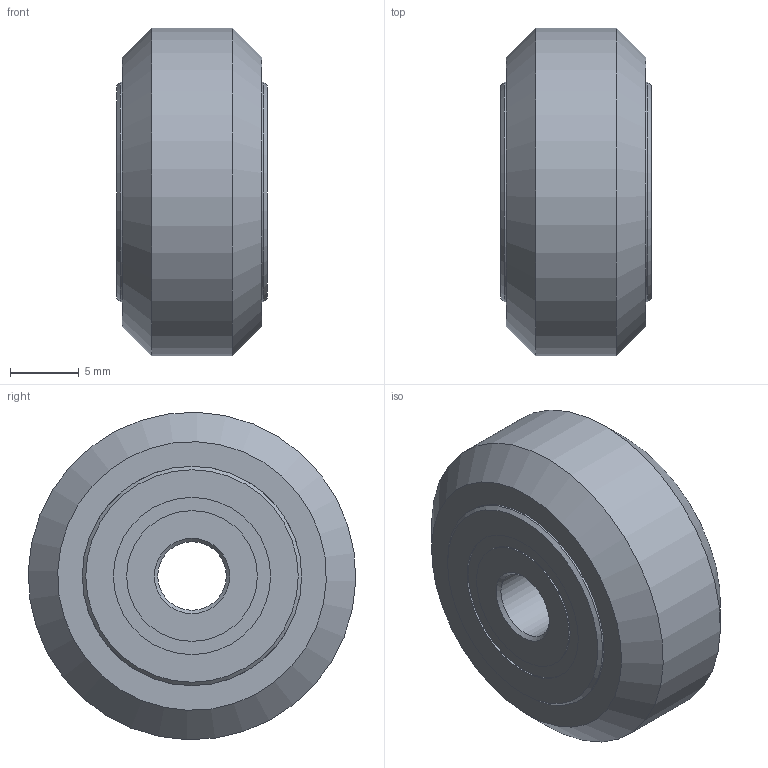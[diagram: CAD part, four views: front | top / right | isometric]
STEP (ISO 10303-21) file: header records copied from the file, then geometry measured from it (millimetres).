
FILE_DESCRIPTION(/* description */ (''),/* implementation_level */ '2;1');
FILE_NAME(/* name */ 'Solid V Wheel.step',/* time_stamp */ '2025-04-22T13:04:22+05:30',/* author */ (''),/* organization */ (''),/* preprocessor_version */ 'ST-DEVELOPER v20.1',/* originating_system */ 'Autodesk Translation Framework v14.4.0.0',/* authorisation */ '');
FILE_SCHEMA (('AUTOMOTIVE_DESIGN { 1 0 10303 214 3 1 1 }'));
Length unit declared in the file: millimetre
Products named in the file (4): Solid V Wheel; 625 2RS Bearing (1); Wheel (1); Shim Washer (1)
Assembly tree (4 placements, depth 2):
  Solid V Wheel
    625 2RS Bearing (1)  x2
    Wheel (1)
    Shim Washer (1)
Bounding box: 11 x 23.89 x 23.89 mm (x, y, z)
Volume: 3965.3 mm3; surface area: 4787.2 mm2
Topology: 34 solids, 34 shells, 86 faces, 178 edges, 114 vertices
Faces by surface type: cylinder 26, sphere 24, plane 22, cone 10, torus 4
Full cylindrical faces by diameter (mm): 5 x3, 9.533 x8, 10 x1, 11.467 x8, 14 x1, 16 x4, 23.9 x1
Entity records: 1356 total; most frequent: DIRECTION 246, CARTESIAN_POINT 198, ORIENTED_EDGE 152, AXIS2_PLACEMENT_3D 112, EDGE_CURVE 76, EDGE_LOOP 64, VERTEX_POINT 64, CIRCLE 54
